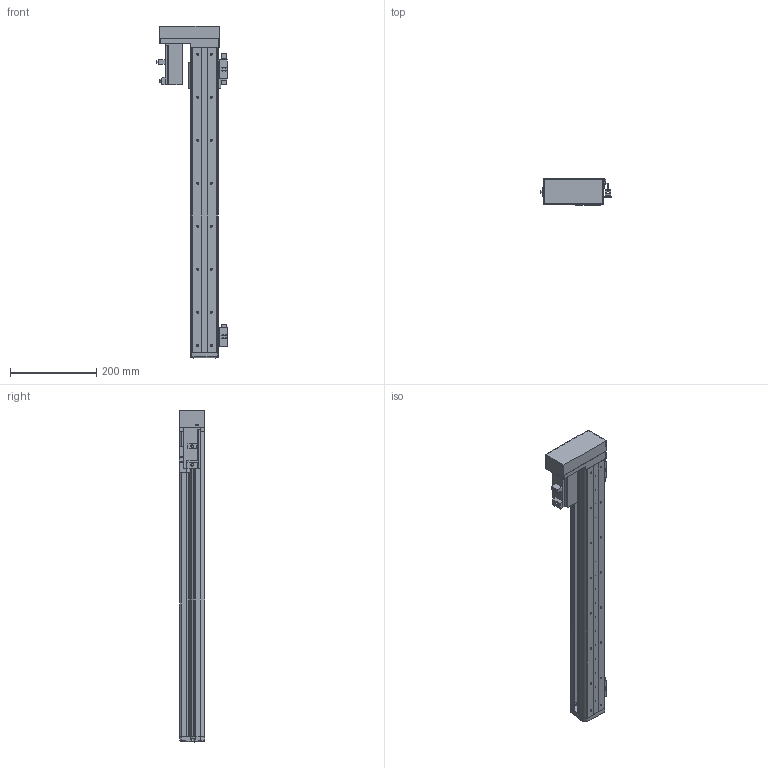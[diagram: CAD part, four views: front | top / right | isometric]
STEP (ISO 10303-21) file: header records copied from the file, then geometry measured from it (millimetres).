
FILE_DESCRIPTION (( 'STEP AP203' ), '1' );
FILE_NAME ('EXT65B-S600-2L.STEP', '2015-12-16T06:32:46', ( 'QQ' ), ( '' ), 'SwSTEP 2.0', 'SolidWorks 2013', '' );
FILE_SCHEMA (( 'CONFIG_CONTROL_DESIGN' ));
Length unit declared in the file: millimetre
Products named in the file (1): EXT65B-S600-2L
Bounding box: 163 x 60.1 x 772 mm (x, y, z)
Volume: 1415029.9 mm3; surface area: 573274.9 mm2
Topology: 20 solids, 20 shells, 985 faces, 2587 edges, 1712 vertices
Faces by surface type: cylinder 513, plane 434, bspline 30, cone 8
Entity records: 33094 total; most frequent: CARTESIAN_POINT 7525, DIRECTION 5471, ORIENTED_EDGE 5172, EDGE_CURVE 2586, AXIS2_PLACEMENT_3D 2008, VERTEX_POINT 1712, VECTOR 1455, LINE 1455
